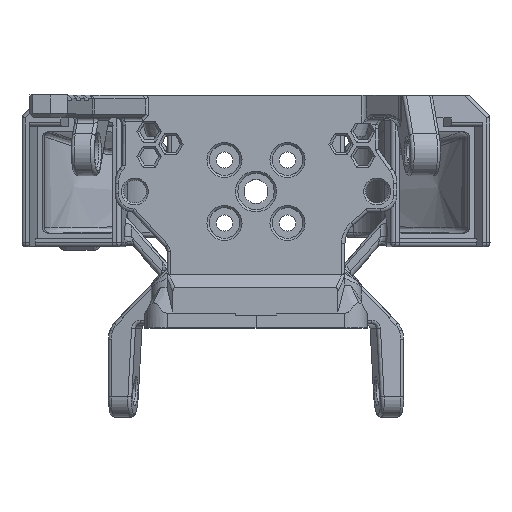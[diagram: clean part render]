
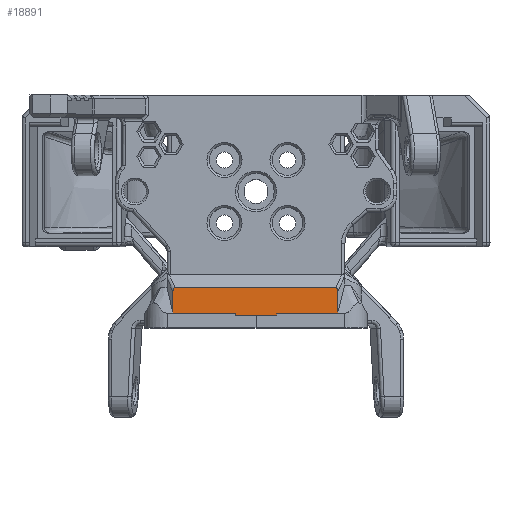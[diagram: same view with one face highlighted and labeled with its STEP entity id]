
A CAD part, top view. The second image highlights one B-rep face of the part: STEP entity #18891.
In plain terms, the highlighted planar face has unit normal (0, 0, 1).
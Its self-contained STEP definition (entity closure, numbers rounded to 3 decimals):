
#1376=ELLIPSE('',#20363,1.919,0.746);
#1379=ELLIPSE('',#20368,1.92,0.746);
#2184=LINE('',#35604,#3525);
#2256=LINE('',#37278,#3597);
#2258=LINE('',#37285,#3599);
#2259=LINE('',#37292,#3600);
#2260=LINE('',#37294,#3601);
#2261=LINE('',#37296,#3602);
#3525=VECTOR('',#23367,10.);
#3597=VECTOR('',#23699,10.);
#3599=VECTOR('',#23707,10.);
#3600=VECTOR('',#23708,10.);
#3601=VECTOR('',#23709,10.);
#3602=VECTOR('',#23710,10.);
#4351=PLANE('',#20367);
#5024=FACE_OUTER_BOUND('',#6186,.T.);
#6186=EDGE_LOOP('',(#15069,#15070,#15071,#15072,#15073,#15074,#15075,#15076,
#15077,#15078));
#7263=B_SPLINE_CURVE_WITH_KNOTS('',3,(#37287,#37288,#37289,#37290),
 .UNSPECIFIED.,.F.,.F.,(4,4),(-1.184,-0.064),
 .UNSPECIFIED.);
#7264=B_SPLINE_CURVE_WITH_KNOTS('',3,(#37297,#37298,#37299,#37300),
 .UNSPECIFIED.,.F.,.F.,(4,4),(-1.097,0.),.UNSPECIFIED.);
#8571=VERTEX_POINT('',#35497);
#8577=VERTEX_POINT('',#35601);
#8578=VERTEX_POINT('',#35603);
#8708=VERTEX_POINT('',#37271);
#8709=VERTEX_POINT('',#37273);
#8710=VERTEX_POINT('',#37277);
#8713=VERTEX_POINT('',#37286);
#8714=VERTEX_POINT('',#37291);
#8715=VERTEX_POINT('',#37293);
#8716=VERTEX_POINT('',#37295);
#10799=EDGE_CURVE('',#8577,#8578,#2184,.T.);
#11019=EDGE_CURVE('',#8708,#8709,#1376,.T.);
#11021=EDGE_CURVE('',#8710,#8709,#2256,.F.);
#11025=EDGE_CURVE('',#8571,#8708,#2258,.T.);
#11026=EDGE_CURVE('',#8713,#8571,#7263,.T.);
#11027=EDGE_CURVE('',#8714,#8713,#2259,.T.);
#11028=EDGE_CURVE('',#8714,#8715,#2260,.F.);
#11029=EDGE_CURVE('',#8716,#8715,#2261,.T.);
#11030=EDGE_CURVE('',#8578,#8716,#7264,.T.);
#11031=EDGE_CURVE('',#8710,#8577,#1379,.T.);
#15069=ORIENTED_EDGE('',*,*,#11019,.F.);
#15070=ORIENTED_EDGE('',*,*,#11025,.F.);
#15071=ORIENTED_EDGE('',*,*,#11026,.F.);
#15072=ORIENTED_EDGE('',*,*,#11027,.F.);
#15073=ORIENTED_EDGE('',*,*,#11028,.T.);
#15074=ORIENTED_EDGE('',*,*,#11029,.F.);
#15075=ORIENTED_EDGE('',*,*,#11030,.F.);
#15076=ORIENTED_EDGE('',*,*,#10799,.F.);
#15077=ORIENTED_EDGE('',*,*,#11031,.F.);
#15078=ORIENTED_EDGE('',*,*,#11021,.T.);
#18891=ADVANCED_FACE('',(#5024),#4351,.F.);
#20363=AXIS2_PLACEMENT_3D('',#37274,#23694,#23695);
#20367=AXIS2_PLACEMENT_3D('',#37284,#23705,#23706);
#20368=AXIS2_PLACEMENT_3D('',#37301,#23711,#23712);
#23367=DIRECTION('',(0.,-1.,0.));
#23694=DIRECTION('center_axis',(0.,0.,
-1.));
#23695=DIRECTION('ref_axis',(-0.422,0.907,0.));
#23699=DIRECTION('',(1.,0.,0.));
#23705=DIRECTION('center_axis',(0.,0.,
-1.));
#23706=DIRECTION('ref_axis',(-1.,0.,0.));
#23707=DIRECTION('',(0.,1.,0.));
#23708=DIRECTION('',(0.,1.,0.));
#23709=DIRECTION('',(-1.,-0.004,0.));
#23710=DIRECTION('',(0.,-1.,0.));
#23711=DIRECTION('center_axis',(0.,0.,
-1.));
#23712=DIRECTION('ref_axis',(0.422,0.907,0.));
#35497=CARTESIAN_POINT('',(-14.871,-39.066,-1.502));
#35601=CARTESIAN_POINT('',(14.71,-35.159,-1.502));
#35603=CARTESIAN_POINT('',(14.71,-39.067,-1.502));
#35604=CARTESIAN_POINT('',(14.71,-28.319,-1.502));
#37271=CARTESIAN_POINT('',(-14.871,-35.158,-1.502));
#37273=CARTESIAN_POINT('',(-14.492,-34.524,-1.502));
#37274=CARTESIAN_POINT('Origin',(-13.816,-36.292,-1.502));
#37277=CARTESIAN_POINT('',(14.331,-34.524,-1.502));
#37278=CARTESIAN_POINT('',(7.735,-34.524,-1.502));
#37284=CARTESIAN_POINT('Origin',(0.07,-27.896,-1.502));
#37285=CARTESIAN_POINT('',(-14.871,-28.319,-1.502));
#37286=CARTESIAN_POINT('',(-3.673,-39.093,-1.502));
#37287=CARTESIAN_POINT('Ctrl Pts',(-3.673,-39.093,
-1.502));
#37288=CARTESIAN_POINT('Ctrl Pts',(-7.406,-39.084,
-1.502));
#37289=CARTESIAN_POINT('Ctrl Pts',(-11.138,-39.075,
-1.502));
#37290=CARTESIAN_POINT('Ctrl Pts',(-14.871,-39.066,-1.502));
#37291=CARTESIAN_POINT('',(-3.673,-39.464,-1.502));
#37292=CARTESIAN_POINT('',(-3.673,-33.849,-1.502));
#37293=CARTESIAN_POINT('',(3.744,-39.438,-1.502));
#37294=CARTESIAN_POINT('',(6.477,-39.428,-1.502));
#37295=CARTESIAN_POINT('',(3.744,-39.093,-1.502));
#37296=CARTESIAN_POINT('',(3.744,-33.849,-1.502));
#37297=CARTESIAN_POINT('Ctrl Pts',(14.71,-39.067,-1.502));
#37298=CARTESIAN_POINT('Ctrl Pts',(11.054,-39.076,-1.502));
#37299=CARTESIAN_POINT('Ctrl Pts',(7.399,-39.084,-1.502));
#37300=CARTESIAN_POINT('Ctrl Pts',(3.744,-39.093,-1.502));
#37301=CARTESIAN_POINT('Origin',(13.654,-36.293,-1.502));
